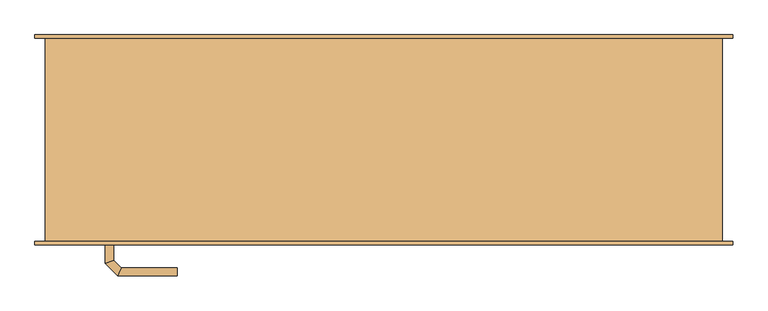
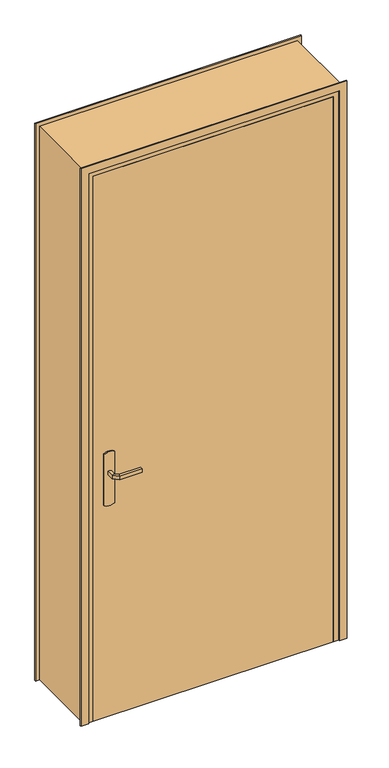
"""IFC4 building model written with IfcOpenShell, lengths in millimetres: door geometry, @_Int. Simple : @_PP (0.93m x 2.25)."""

from ifc_helpers import new_model, si_unit, point, frame, frame_2d, origin, origin_with_axes, place, context, project, spatial, polyline, circle_curve, ellipse_curve, trimmed, segment, composite_curve, outline, extrude, faceted_brep, source, transform, mapped, element, save
from ifc_brep_helpers import plane_surface, cylinder_surface, advanced_brep


def door_6e5ff935(model_context):
    return source(origin(), model_context, "Body", "SolidModel", [
        extrude(outline(composite_curve([segment(trimmed(circle_curve(frame_2d((904.6410162, -440.0)), 40.0), [point((870.0, -460.0))], [point((870.0, -420.0))], False, "CARTESIAN"), True, "CONTINUOUS"), segment(polyline([(870.0, -420.0), (1080.0, -420.0)]), True, "CONTINUOUS"), segment(trimmed(circle_curve(frame_2d((1045.3589838, -440.0)), 40.0), [point((1080.0, -420.0))], [point((1080.0, -460.0))], False, "CARTESIAN"), True, "CONTINUOUS"), segment(polyline([(1080.0, -460.0), (870.0, -460.0)]), True, "CONTINUOUS")], self_intersect=False)), frame((0.0, -155.0, 0.0), z_axis=(0.0, 1.0, 0.0), x_axis=(0.0, 0.0, 1.0)), (0.0, 0.0, 1.0), 5.0),
        extrude(outline(composite_curve([segment(trimmed(circle_curve(frame_2d((1045.3589838, -440.0)), 40.0), [point((1080.0, -420.0))], [point((1080.0, -460.0))], False, "CARTESIAN"), True, "CONTINUOUS"), segment(polyline([(1080.0, -460.0), (870.0, -460.0)]), True, "CONTINUOUS"), segment(trimmed(circle_curve(frame_2d((904.6410162, -440.0)), 40.0), [point((870.0, -460.0))], [point((870.0, -420.0))], False, "CARTESIAN"), True, "CONTINUOUS"), segment(polyline([(870.0, -420.0), (1080.0, -420.0)]), True, "CONTINUOUS")], self_intersect=False)), frame((0.0, -110.0, 0.0), z_axis=(0.0, 1.0, 0.0), x_axis=(0.0, 0.0, 1.0)), (0.0, 0.0, 1.0), 5.0),
        advanced_brep(
        [(-446.0, -155.0, 1007.0), (-434.0, -155.0, 1007.0), (-434.0, -155.0, 993.0), (-446.0, -155.0, 993.0), (-446.0, -182.6509507, 1007.0), (-434.0, -177.680388, 1007.0), (-434.0, -177.680388, 993.0), (-446.0, -182.6509507, 993.0), (-427.62279, -201.0281607, 1007.0), (-422.6522273, -189.0281607, 1007.0), (-422.6522273, -189.0281607, 993.0), (-427.62279, -201.0281607, 993.0), (-339.9813594, -201.0281607, 1007.0), (-339.9813594, -201.0281607, 993.0), (-339.9813594, -189.0281607, 993.0), (-339.9813594, -189.0281607, 1007.0)],
        [
            (0, 1, circle_curve(frame((-440.0, -155.0, 986.9542278), z_axis=(0.0, 1.0, 0.0), x_axis=(1.0, 0.0, 0.0)), 20.9244589)),
            (1, 2),
            (2, 3, circle_curve(frame((-440.0, -155.0, 1013.0457722), z_axis=(0.0, 1.0, 0.0), x_axis=(1.0, 0.0, 0.0)), 20.9244589)),
            (3, 0),
            (0, 4),
            (4, 5, ellipse_curve(frame((-440.0, -180.1656693, 986.9542278), z_axis=(-0.3826834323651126, 0.9238795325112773, 0.0), x_axis=(0.9238795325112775, 0.38268343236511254, 0.0)), 22.6484711, 20.9244589)),
            (5, 1),
            (5, 6),
            (6, 2),
            (6, 7, ellipse_curve(frame((-440.0, -180.1656693, 1013.0457722), z_axis=(-0.3826834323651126, 0.9238795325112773, 0.0), x_axis=(0.9238795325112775, 0.38268343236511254, 0.0)), 22.6484711, 20.9244589)),
            (7, 3),
            (7, 4),
            (4, 8),
            (8, 9, ellipse_curve(frame((-425.1375086, -195.0281607, 986.9542278), z_axis=(-0.9238795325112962, 0.38268343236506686, 0.0), x_axis=(0.3826834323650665, 0.9238795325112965, 0.0)), 22.6484711, 20.9244589)),
            (9, 5),
            (9, 10),
            (10, 6),
            (10, 11, ellipse_curve(frame((-425.1375086, -195.0281607, 1013.0457722), z_axis=(-0.9238795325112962, 0.38268343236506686, 0.0), x_axis=(0.3826834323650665, 0.9238795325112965, 0.0)), 22.6484711, 20.9244589)),
            (11, 7),
            (11, 8),
            (12, 13),
            (13, 14, circle_curve(frame((-339.9813594, -195.0281607, 1013.0457722), z_axis=(1.0, 0.0, 0.0), x_axis=(0.0, 1.0, 0.0)), 20.9244589)),
            (14, 15),
            (15, 12, circle_curve(frame((-339.9813594, -195.0281607, 986.9542278), z_axis=(1.0, 0.0, 0.0), x_axis=(0.0, 1.0, 0.0)), 20.9244589)),
            (8, 12),
            (15, 9),
            (14, 10),
            (13, 11),
        ],
        [
            plane_surface(frame((-449.2195445, -155.0, 1000.0), z_axis=(0.0, 1.0, 0.0), x_axis=(0.0, 0.0, -1.0))),
            cylinder_surface(frame((-440.0, -155.0, 986.9542278), z_axis=(0.0, 1.0, 0.0), x_axis=(1.0, 0.0, 0.0)), 20.9244589),
            plane_surface(frame((-434.0, -155.0, 1007.0), z_axis=(1.0, 0.0, 0.0), x_axis=(0.0, -1.0, 0.0))),
            cylinder_surface(frame((-440.0, -155.0, 1013.0457722), z_axis=(0.0, 1.0, 0.0), x_axis=(1.0, 0.0, 0.0)), 20.9244589),
            plane_surface(frame((-446.0, -155.0, 993.0), z_axis=(-1.0, 0.0, 0.0), x_axis=(0.0, -1.0, 0.0))),
            cylinder_surface(frame((-440.0, -180.1656693, 986.9542278), z_axis=(-0.7071067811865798, 0.7071067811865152, 0.0), x_axis=(0.7071067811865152, 0.7071067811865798, 0.0)), 20.9244589),
            plane_surface(frame((-434.0, -177.680388, 1007.0), z_axis=(0.7071067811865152, 0.7071067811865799, 0.0), x_axis=(0.7071067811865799, -0.7071067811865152, 0.0))),
            cylinder_surface(frame((-440.0, -180.1656693, 1013.0457722), z_axis=(-0.7071067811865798, 0.7071067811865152, 0.0), x_axis=(0.7071067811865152, 0.7071067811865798, 0.0)), 20.9244589),
            plane_surface(frame((-446.0, -182.6509507, 993.0), z_axis=(-0.7071067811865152, -0.7071067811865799, 0.0), x_axis=(0.7071067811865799, -0.7071067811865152, 0.0))),
            plane_surface(frame((-339.9813594, -195.0281607, 990.7804555), z_axis=(1.0, 0.0, 0.0), x_axis=(0.0, 1.0, 0.0))),
            cylinder_surface(frame((-425.1375086, -195.0281607, 986.9542278), z_axis=(-1.0, 0.0, 0.0), x_axis=(0.0, 1.0, 0.0)), 20.9244589),
            plane_surface(frame((-422.6522273, -189.0281607, 1007.0), z_axis=(0.0, 1.0, 0.0), x_axis=(1.0, 0.0, 0.0))),
            cylinder_surface(frame((-425.1375086, -195.0281607, 1013.0457722), z_axis=(-1.0, 0.0, 0.0), x_axis=(0.0, 1.0, 0.0)), 20.9244589),
            plane_surface(frame((-427.62279, -201.0281607, 993.0), z_axis=(0.0, -1.0, 0.0), x_axis=(1.0, 0.0, 0.0))),
        ],
        [
            (0, [[1, 2, 3, 4]]),
            (1, [[-1, 5, 6, 7]]),
            (2, [[-2, -7, 8, 9]]),
            (3, [[-3, -9, 10, 11]]),
            (4, [[-4, -11, 12, -5]]),
            (5, [[-6, 13, 14, 15]]),
            (6, [[-8, -15, 16, 17]]),
            (7, [[-10, -17, 18, 19]]),
            (8, [[-12, -19, 20, -13]]),
            (9, [[21, 22, 23, 24]]),
            (10, [[-14, 25, -24, 26]]),
            (11, [[-16, -26, -23, 27]]),
            (12, [[-18, -27, -22, 28]]),
            (13, [[-20, -28, -21, -25]]),
        ],
    ),
        advanced_brep(
        [(-434.0, -105.0, 993.0), (-434.0, -105.0, 1007.0), (-446.0, -105.0, 1007.0), (-446.0, -105.0, 993.0), (-434.0, -82.5147955, 993.0), (-434.0, -82.5147955, 1007.0), (-446.0, -77.5442327, 1007.0), (-446.0, -77.5442327, 993.0), (-422.5147186, -71.0295141, 993.0), (-422.5147186, -71.0295141, 1007.0), (-427.4852814, -59.0295141, 1007.0), (-427.4852814, -59.0295141, 993.0), (-339.9542163, -71.0295141, 993.0), (-339.9542163, -59.0295141, 993.0), (-339.9542163, -59.0295141, 1007.0), (-339.9542163, -71.0295141, 1007.0)],
        [
            (0, 1),
            (1, 2, circle_curve(frame((-440.0, -105.0, 986.9542278), z_axis=(0.0, -1.0, 0.0), x_axis=(-1.0, 0.0, 0.0)), 20.9244589)),
            (2, 3),
            (3, 0, circle_curve(frame((-440.0, -105.0, 1013.0457722), z_axis=(0.0, -1.0, 0.0), x_axis=(-1.0, 0.0, 0.0)), 20.9244589)),
            (0, 4),
            (4, 5),
            (5, 1),
            (5, 6, ellipse_curve(frame((-440.0, -80.0295141, 986.9542278), z_axis=(-0.3826834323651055, -0.9238795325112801, 0.0), x_axis=(0.9238795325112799, -0.3826834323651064, 0.0)), 22.6484711, 20.9244589)),
            (6, 2),
            (6, 7),
            (7, 3),
            (7, 4, ellipse_curve(frame((-440.0, -80.0295141, 1013.0457722), z_axis=(-0.3826834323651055, -0.9238795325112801, 0.0), x_axis=(0.9238795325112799, -0.3826834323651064, 0.0)), 22.6484711, 20.9244589)),
            (4, 8),
            (8, 9),
            (9, 5),
            (9, 10, ellipse_curve(frame((-425.0, -65.0295141, 986.9542278), z_axis=(-0.9238795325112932, -0.382683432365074, 0.0), x_axis=(0.3826834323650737, -0.9238795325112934, 0.0)), 22.6484711, 20.9244589)),
            (10, 6),
            (10, 11),
            (11, 7),
            (11, 8, ellipse_curve(frame((-425.0, -65.0295141, 1013.0457722), z_axis=(-0.9238795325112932, -0.382683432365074, 0.0), x_axis=(0.3826834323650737, -0.9238795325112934, 0.0)), 22.6484711, 20.9244589)),
            (12, 13, circle_curve(frame((-339.9542163, -65.0295141, 1013.0457722), z_axis=(1.0, 0.0, 0.0), x_axis=(0.0, 1.0, 0.0)), 20.9244589)),
            (13, 14),
            (14, 15, circle_curve(frame((-339.9542163, -65.0295141, 986.9542278), z_axis=(1.0, 0.0, 0.0), x_axis=(0.0, 1.0, 0.0)), 20.9244589)),
            (15, 12),
            (8, 12),
            (15, 9),
            (14, 10),
            (13, 11),
        ],
        [
            plane_surface(frame((-449.2195445, -105.0, 1000.0), z_axis=(0.0, -1.0, 0.0), x_axis=(0.0, 0.0, 1.0))),
            plane_surface(frame((-434.0, -105.0, 993.0), z_axis=(1.0, 0.0, 0.0), x_axis=(0.0, 1.0, 0.0))),
            cylinder_surface(frame((-440.0, -105.0, 986.9542278), z_axis=(0.0, -1.0, 0.0), x_axis=(-1.0, 0.0, 0.0)), 20.9244589),
            plane_surface(frame((-446.0, -105.0, 1007.0), z_axis=(-1.0, 0.0, 0.0), x_axis=(0.0, 1.0, 0.0))),
            cylinder_surface(frame((-440.0, -105.0, 1013.0457722), z_axis=(0.0, -1.0, 0.0), x_axis=(-1.0, 0.0, 0.0)), 20.9244589),
            plane_surface(frame((-434.0, -82.5147955, 993.0), z_axis=(0.7071067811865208, -0.7071067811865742, 0.0), x_axis=(0.7071067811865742, 0.7071067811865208, 0.0))),
            cylinder_surface(frame((-440.0, -80.0295141, 986.9542278), z_axis=(-0.7071067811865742, -0.7071067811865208, 0.0), x_axis=(-0.7071067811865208, 0.7071067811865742, 0.0)), 20.9244589),
            plane_surface(frame((-446.0, -77.5442327, 1007.0), z_axis=(-0.7071067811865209, 0.7071067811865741, 0.0), x_axis=(0.7071067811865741, 0.7071067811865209, 0.0))),
            cylinder_surface(frame((-440.0, -80.0295141, 1013.0457722), z_axis=(-0.7071067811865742, -0.7071067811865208, 0.0), x_axis=(-0.7071067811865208, 0.7071067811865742, 0.0)), 20.9244589),
            plane_surface(frame((-339.9542163, -65.0295141, 990.7804555), z_axis=(1.0, 0.0, 0.0), x_axis=(0.0, 1.0, 0.0))),
            plane_surface(frame((-422.5147186, -71.0295141, 993.0), z_axis=(0.0, -1.0, 0.0), x_axis=(1.0, 0.0, 0.0))),
            cylinder_surface(frame((-425.0, -65.0295141, 986.9542278), z_axis=(-1.0, 0.0, 0.0), x_axis=(0.0, 1.0, 0.0)), 20.9244589),
            plane_surface(frame((-427.4852814, -59.0295141, 1007.0), z_axis=(0.0, 1.0, 0.0), x_axis=(1.0, 0.0, 0.0))),
            cylinder_surface(frame((-425.0, -65.0295141, 1013.0457722), z_axis=(-1.0, 0.0, 0.0), x_axis=(0.0, 1.0, 0.0)), 20.9244589),
        ],
        [
            (0, [[1, 2, 3, 4]]),
            (1, [[-1, 5, 6, 7]]),
            (2, [[-2, -7, 8, 9]]),
            (3, [[-3, -9, 10, 11]]),
            (4, [[-4, -11, 12, -5]]),
            (5, [[-6, 13, 14, 15]]),
            (6, [[-8, -15, 16, 17]]),
            (7, [[-10, -17, 18, 19]]),
            (8, [[-12, -19, 20, -13]]),
            (9, [[21, 22, 23, 24]]),
            (10, [[-14, 25, -24, 26]]),
            (11, [[-16, -26, -23, 27]]),
            (12, [[-18, -27, -22, 28]]),
            (13, [[-20, -28, -21, -25]]),
        ],
    ),
        extrude(outline(polyline([(-500.0, -110.0), (430.0, -110.0), (430.0, -150.0), (-500.0, -150.0), (-500.0, -110.0)])), origin_with_axes(), (0.0, 0.0, 1.0), 2230.0),
        faceted_brep([(-535.0, -150.0, 0.0), (-535.0, 150.0, 0.0), (-485.0, 150.0, 0.0), (-485.0, -110.0, 0.0), (-500.0, -110.0, 0.0), (-500.0, -150.0, 0.0), (-535.0, -150.0, 2265.0), (-535.0, 150.0, 2265.0), (465.0, 150.0, 2265.0), (465.0, 150.0, 0.0), (415.0, 150.0, 0.0), (415.0, 150.0, 2215.0), (-485.0, 150.0, 2215.0), (-485.0, -110.0, 2215.0), (415.0, -110.0, 2215.0), (415.0, -110.0, 0.0), (430.0, -110.0, 0.0), (430.0, -110.0, 2230.0), (-500.0, -110.0, 2230.0), (-500.0, -150.0, 2230.0), (430.0, -150.0, 2230.0), (430.0, -150.0, 0.0), (465.0, -150.0, 0.0), (465.0, -150.0, 2265.0)], [[[0, 1, 2, 3, 4, 5]], [[1, 0, 6, 7]], [[2, 1, 7, 8, 9, 10, 11, 12]], [[3, 2, 12, 13]], [[4, 3, 13, 14, 15, 16, 17, 18]], [[5, 4, 18, 19]], [[0, 5, 19, 20, 21, 22, 23, 6]], [[8, 23, 22, 9]], [[22, 21, 16, 15, 10, 9]], [[14, 11, 10, 15]], [[20, 17, 16, 21]], [[7, 6, 23, 8]], [[13, 12, 11, 14]], [[19, 18, 17, 20]]]),
        extrude(outline(polyline([(0.0, -550.0), (0.0, -520.0), (2250.0, -520.0), (2250.0, 450.0), (0.0, 450.0), (0.0, 480.0), (2280.0, 480.0), (2280.0, -550.0), (0.0, -550.0)])), frame((0.0, -155.0, 0.0), z_axis=(0.0, 1.0, 0.0), x_axis=(0.0, 0.0, 1.0)), (0.0, 0.0, 1.0), 5.0),
        extrude(outline(polyline([(0.0, -550.0), (0.0, -520.0), (2250.0, -520.0), (2250.0, 450.0), (0.0, 450.0), (0.0, 480.0), (2280.0, 480.0), (2280.0, -550.0), (0.0, -550.0)])), frame((0.0, 150.0, 0.0), z_axis=(0.0, 1.0, 0.0), x_axis=(0.0, 0.0, 1.0)), (0.0, 0.0, 1.0), 5.0),
    ])


if __name__ == "__main__":
    model = new_model("IFC4")
    model_context = context("Model", 3, world=origin())
    ifc_project = project(units=[si_unit("LENGTHUNIT", "METRE", prefix="MILLI")], contexts=[model_context])
    site = spatial("IfcSite", under=ifc_project)
    building = spatial("IfcBuilding", under=site)
    placement = place(None, origin())
    door_shape = door_6e5ff935(model_context)
    element("IfcDoor", 1, ObjectType="@_Int. Simple : @_PP (0.93m x 2.25)", at=placement, inside=building, context=model_context, shape_type="MappedRepresentation", body=[
        mapped(door_shape, transform((0.0, 0.0, 0.0), x_axis=(1.0, 0.0, 0.0), y_axis=(0.0, 1.0, 0.0), z_axis=(0.0, 0.0, 1.0))),
    ])
    save(model, "model.ifc")
